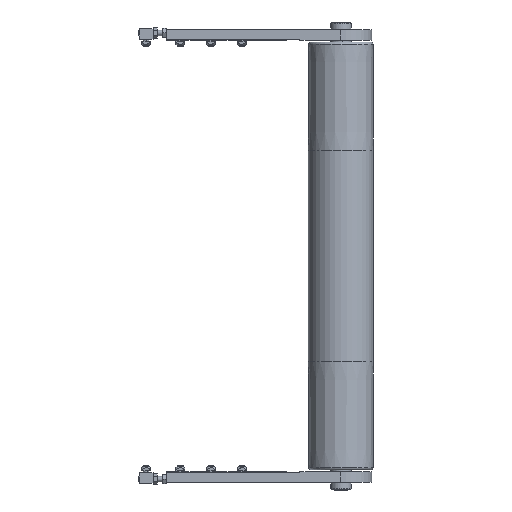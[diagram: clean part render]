
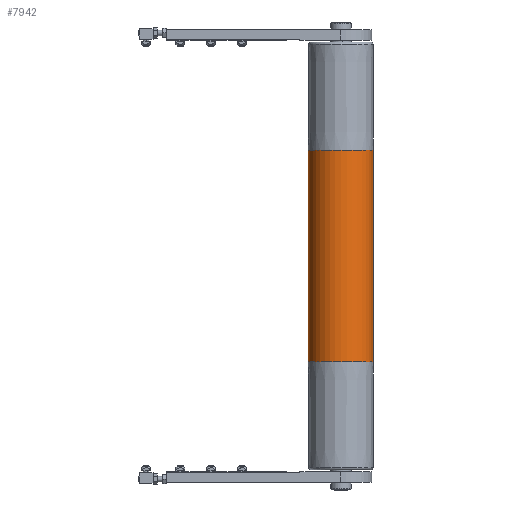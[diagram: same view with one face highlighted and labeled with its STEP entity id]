
A CAD part, front view. The second image highlights one B-rep face of the part: STEP entity #7942.
In plain terms, the highlighted cylindrical face has radius 47.5 mm (diameter 95 mm), a partial arc.
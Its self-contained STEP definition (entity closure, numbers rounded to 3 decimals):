
#1583 = VERTEX_POINT ( 'NONE', #12486 ) ;
#1615 = VERTEX_POINT ( 'NONE', #12454 ) ;
#1649 = VERTEX_POINT ( 'NONE', #12420 ) ;
#3064 = EDGE_LOOP ( 'NONE', ( #10208, #10206, #10205, #10204 ) ) ;
#3462 = VERTEX_POINT ( 'NONE', #12238 ) ;
#5363 = CIRCLE ( 'NONE', #11296, 47.5 ) ;
#5366 = CIRCLE ( 'NONE', #11293, 47.5 ) ;
#5804 = CYLINDRICAL_SURFACE ( 'NONE', #10565, 47.5 ) ;
#5820 = FACE_OUTER_BOUND ( 'NONE', #3064, .T. ) ;
#5886 = VECTOR ( 'NONE', #10921, 1000. ) ;
#5888 = VECTOR ( 'NONE', #10908, 1000. ) ;
#5889 = LINE ( 'NONE', #10909, #5886 ) ;
#5892 = LINE ( 'NONE', #11065, #5888 ) ;
#7148 = DIRECTION ( 'NONE',  ( 0., 0., -1. ) ) ;
#7150 = DIRECTION ( 'NONE',  ( 1., 0., 0. ) ) ;
#7151 = CARTESIAN_POINT ( 'NONE',  ( -155., 0., 0. ) ) ;
#7153 = DIRECTION ( 'NONE',  ( 0., 0., -1. ) ) ;
#7154 = DIRECTION ( 'NONE',  ( 1., 0., 0. ) ) ;
#7155 = CARTESIAN_POINT ( 'NONE',  ( 155., 0., 0. ) ) ;
#7942 = ADVANCED_FACE ( 'NONE', ( #5820 ), #5804, .T. ) ;
#8991 = EDGE_CURVE ( 'NONE', #1649, #1583, #5892, .T. ) ;
#8992 = EDGE_CURVE ( 'NONE', #1615, #3462, #5889, .T. ) ;
#9815 = EDGE_CURVE ( 'NONE', #1615, #1649, #5366, .T. ) ;
#9817 = EDGE_CURVE ( 'NONE', #3462, #1583, #5363, .T. ) ;
#10204 = ORIENTED_EDGE ( 'NONE', *, *, #9817, .T. ) ;
#10205 = ORIENTED_EDGE ( 'NONE', *, *, #8992, .T. ) ;
#10206 = ORIENTED_EDGE ( 'NONE', *, *, #9815, .F. ) ;
#10208 = ORIENTED_EDGE ( 'NONE', *, *, #8991, .F. ) ;
#10565 = AXIS2_PLACEMENT_3D ( 'NONE', #13756, #13757, #13766 ) ;
#10908 = DIRECTION ( 'NONE',  ( -1., 0., 0. ) ) ;
#10909 = CARTESIAN_POINT ( 'NONE',  ( 310., 0., 47.5 ) ) ;
#10921 = DIRECTION ( 'NONE',  ( -1., 0., 0. ) ) ;
#11065 = CARTESIAN_POINT ( 'NONE',  ( 310., 0., -47.5 ) ) ;
#11293 = AXIS2_PLACEMENT_3D ( 'NONE', #7155, #7154, #7153 ) ;
#11296 = AXIS2_PLACEMENT_3D ( 'NONE', #7151, #7150, #7148 ) ;
#12238 = CARTESIAN_POINT ( 'NONE',  ( -155., 0., 47.5 ) ) ;
#12420 = CARTESIAN_POINT ( 'NONE',  ( 155., 0., -47.5 ) ) ;
#12454 = CARTESIAN_POINT ( 'NONE',  ( 155., 0., 47.5 ) ) ;
#12486 = CARTESIAN_POINT ( 'NONE',  ( -155., 0., -47.5 ) ) ;
#13756 = CARTESIAN_POINT ( 'NONE',  ( 310., 0., 0. ) ) ;
#13757 = DIRECTION ( 'NONE',  ( -1., 0., 0. ) ) ;
#13766 = DIRECTION ( 'NONE',  ( 0., 0., 1. ) ) ;
